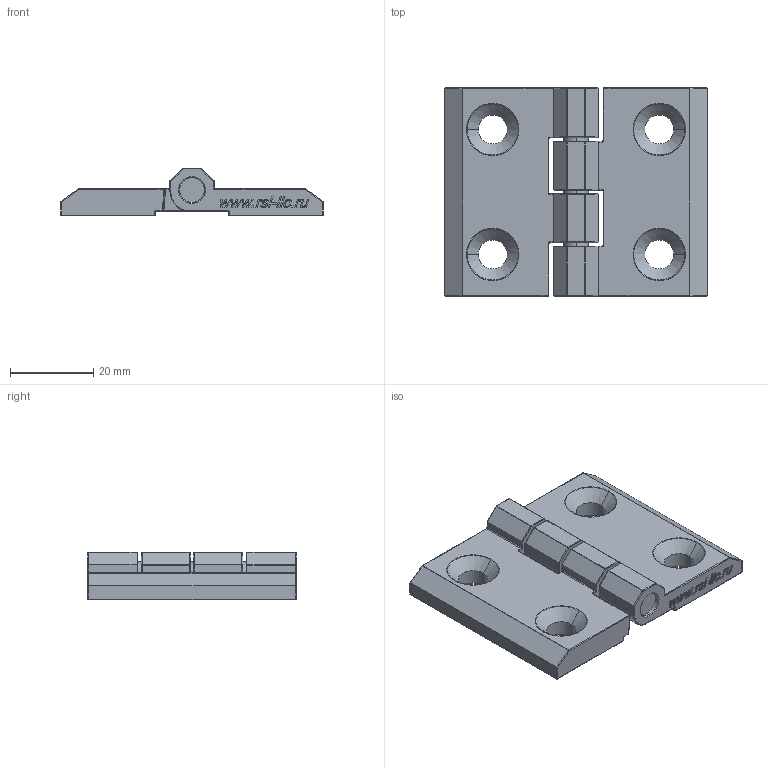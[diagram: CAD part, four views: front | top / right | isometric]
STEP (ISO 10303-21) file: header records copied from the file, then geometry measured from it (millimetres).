
FILE_DESCRIPTION (( 'STEP AP214' ), '1' );
FILE_NAME ('3026.STEP', '2020-10-09T06:02:45', ( '' ), ( '' ), 'SwSTEP 2.0', 'SolidWorks 2018', '' );
FILE_SCHEMA (( 'AUTOMOTIVE_DESIGN' ));
Length unit declared in the file: millimetre
Products named in the file (3): 3026-03; 3026-01; 3026
Assembly tree (3 placements, depth 2):
  3026
    3026-01  x2
    3026-03
Bounding box: 63 x 50.2 x 11.5 mm (x, y, z)
Volume: 14199.9 mm3; surface area: 11901.2 mm2
Topology: 3 solids, 3 shells, 874 faces, 2132 edges, 1208 vertices
Faces by surface type: plane 322, cylinder 232, bspline 120, torus 92, sphere 92, cone 16
Entity records: 16533 total; most frequent: CARTESIAN_POINT 4966, ORIENTED_EDGE 2046, DIRECTION 1993, EDGE_CURVE 1023, AXIS2_PLACEMENT_3D 709, VERTEX_POINT 606, LINE 575, VECTOR 575
